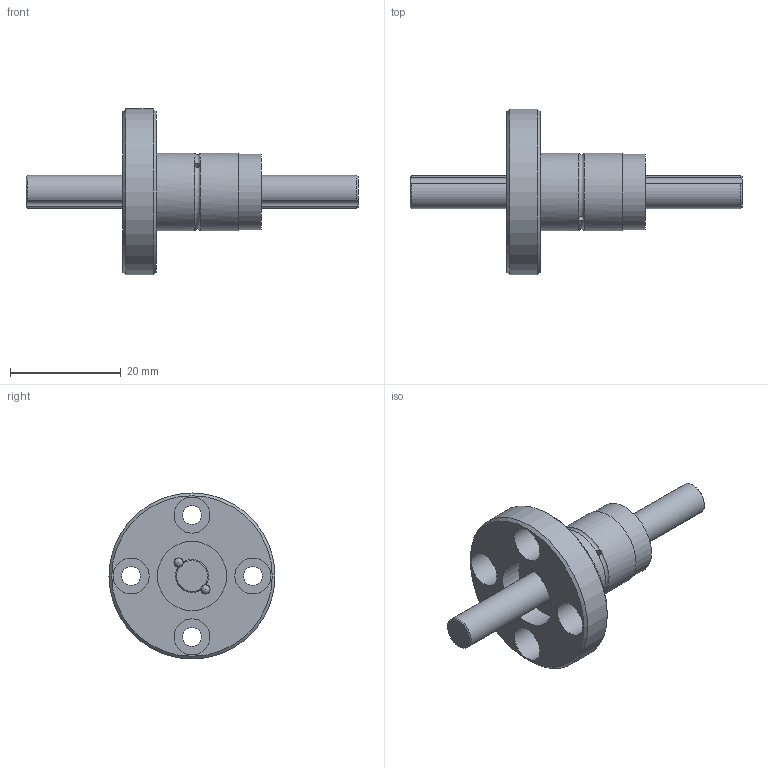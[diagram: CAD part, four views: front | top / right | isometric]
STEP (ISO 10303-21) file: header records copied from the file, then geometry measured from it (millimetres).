
FILE_DESCRIPTION(/* description */ ('Unknown'),/* implementation_level */ '2;1');
FILE_NAME(/* name */ 'TLF006-D-60',/* time_stamp */ '2024-12-16T13:39:34+08:00',/* author */ ('Unknown'),/* organization */ ('Unknown'),/* preprocessor_version */ 'ST-DEVELOPER v18.102',/* originating_system */ 'Solid Edge',/* authorisation */ 'Unknown');
FILE_SCHEMA (('AUTOMOTIVE_DESIGN {1 0 10303 214 3 1 1}'));
Length unit declared in the file: millimetre
Products named in the file (3): TLF006-D-60; TLF006; TLF006-D-xxxxx
Assembly tree (2 placements, depth 2):
  TLF006-D-60
    TLF006
    TLF006-D-xxxxx
Bounding box: 60 x 30 x 30 mm (x, y, z)
Volume: 6941.5 mm3; surface area: 5026 mm2
Topology: 2 solids, 2 shells, 52 faces, 157 edges, 105 vertices
Faces by surface type: cylinder 23, plane 11, sphere 10, cone 6, torus 2
Full cylindrical faces by diameter (mm): 1 x2, 3.4 x4, 6.5 x4, 12.5 x1, 13.6 x1, 14 x2, 30 x1
Entity records: 1863 total; most frequent: CARTESIAN_POINT 647, DIRECTION 234, ORIENTED_EDGE 188, EDGE_LOOP 114, FACE_BOUND 114, AXIS2_PLACEMENT_3D 113, EDGE_CURVE 94, VERTEX_POINT 78
